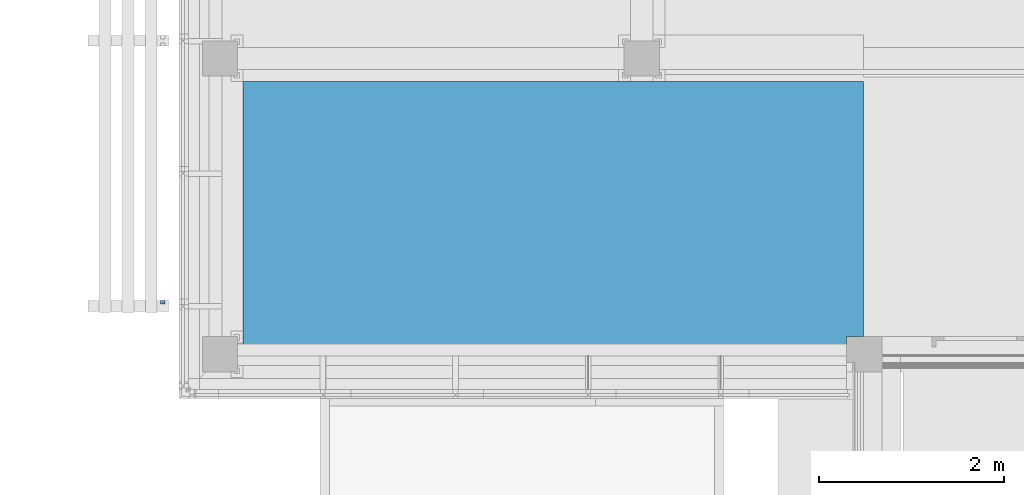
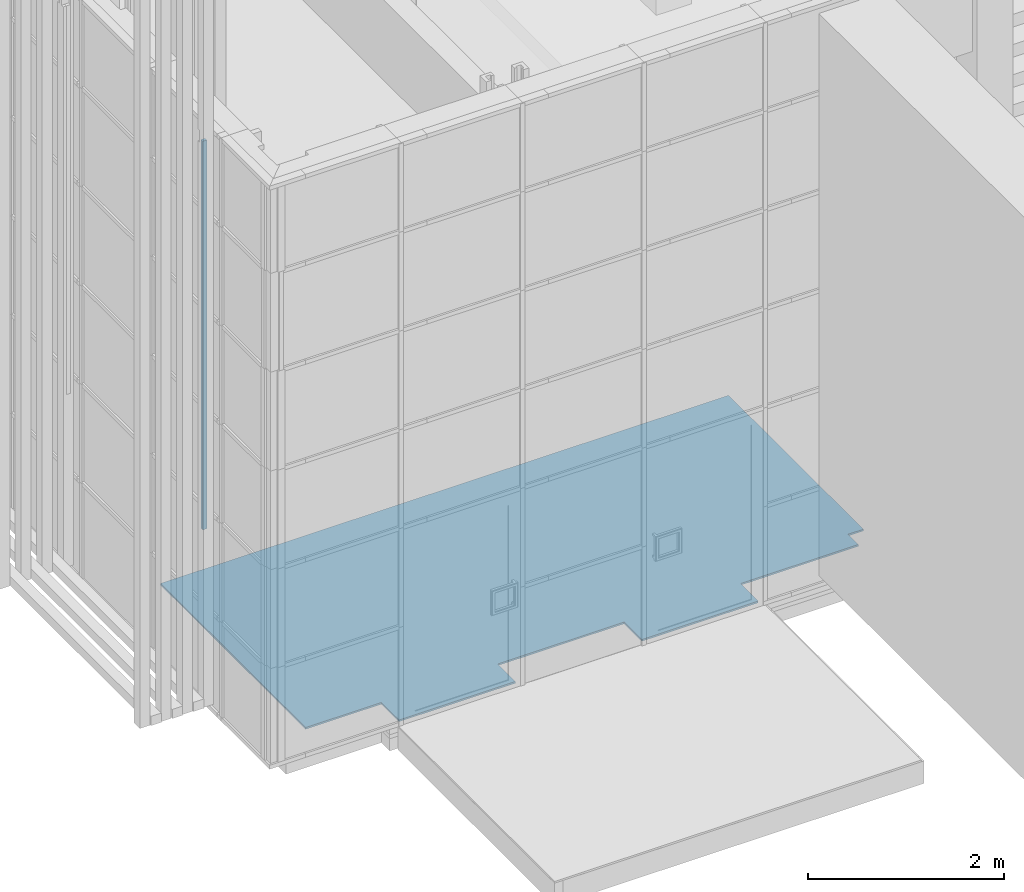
# One storey, part 133 of 260: 2 discrete accessories.
"""IFC2X3 building model written with IfcOpenShell, lengths in millimetres."""

from ifc_helpers import new_model, entity, si_unit, converted_unit, derived_unit, money_unit, direction, frame, origin_with_axes, place, context, subcontext, project, spatial, faceted_brep, material, type_object, element, save


model = new_model("IFC2X3")

# Units and contexts
model_context = context("Model", 3, precision=0.01, world=origin_with_axes(), true_north=direction((0.0, 1.0)))
body_context = subcontext(model_context, "Body", "Model", "MODEL_VIEW")
ifc_project = project(units=[si_unit("LENGTHUNIT", "METRE", prefix="MILLI"), si_unit("AREAUNIT", "SQUARE_METRE"), si_unit("VOLUMEUNIT", "CUBIC_METRE"), converted_unit("PLANEANGLEUNIT", "DEGREE", entity("IfcPlaneAngleMeasure", 0.0174532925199), si_unit("PLANEANGLEUNIT", "RADIAN"), dimensions=[0, 0, 0, 0, 0, 0, 0]), money_unit("EUR"), converted_unit("TIMEUNIT", "Year", entity("IfcTimeMeasure", 31556926.0), si_unit("TIMEUNIT", "SECOND"), dimensions=[0, 0, 1, 0, 0, 0, 0]), si_unit("MASSUNIT", "GRAM", prefix="KILO"), si_unit("THERMODYNAMICTEMPERATUREUNIT", "DEGREE_CELSIUS"), si_unit("LUMINOUSINTENSITYUNIT", "LUMEN"), si_unit("ENERGYUNIT", "JOULE", prefix="MEGA"), derived_unit("THERMALCONDUCTANCEUNIT", [(si_unit("POWERUNIT", "WATT"), 1), (si_unit("LENGTHUNIT", "METRE"), -1), (si_unit("THERMODYNAMICTEMPERATUREUNIT", "KELVIN"), -1)]), derived_unit("SPECIFICHEATCAPACITYUNIT", [(si_unit("ENERGYUNIT", "JOULE"), 1), (si_unit("MASSUNIT", "GRAM", prefix="KILO"), -1), (si_unit("THERMODYNAMICTEMPERATUREUNIT", "KELVIN"), -1)]), derived_unit("MASSDENSITYUNIT", [(si_unit("MASSUNIT", "GRAM", prefix="KILO"), 1), (si_unit("VOLUMEUNIT", "CUBIC_METRE"), -1)])], contexts=[model_context])

# Site, building, storey
site_placement = place(None, origin_with_axes())
site = spatial("IfcSite", under=ifc_project, at=site_placement, Name="Kolde pst 67a", CompositionType="ELEMENT")
building_placement = place(site_placement, origin_with_axes())
building = spatial("IfcBuilding", under=site, at=building_placement, Name="Riigigümnaasium", CompositionType="ELEMENT")
storey_placement = place(building_placement, origin_with_axes())
storey = spatial("IfcBuildingStorey", under=building, at=storey_placement, Name="1. korrus", CompositionType="ELEMENT", Elevation=0.0)

# Discrete accessories
ifc_material = material(Name="_METALL - teras")
discrete_accessory_type_1 = type_object("IfcDiscreteAccessoryType", Name="_METALL - teras 22")
discrete_accessory_1_placement = place(storey_placement, frame((48479.9855025, 7690.00777853, 0.0), z_axis=(0.0, 0.0, 1.0), x_axis=(1.0, 0.0, 0.0)))
element("IfcDiscreteAccessory", 1, at=discrete_accessory_1_placement, inside=storey, type_object=discrete_accessory_type_1, material=ifc_material, Name="süvistatud poritõkkesüsteem 22 mm vastavalt SA osale", context=body_context, shape_type="Brep", body=[
    faceted_brep([(0.0, 0.0, 0.0), (0.0, 0.0, -22.0), (891.781124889, 0.0, -22.0), (891.781124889, 0.0, 0.0), (0.0, 2959.95423622, 0.0), (0.0, 2959.95423622, -22.0), (6689.99657307, 2959.95423622, -22.0), (6689.99657307, 209.992290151, -22.0), (6509.99476493, 209.992290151, -22.0), (6509.99476493, 0.0, -22.0), (5121.56567142, 0.0, -22.0), (5121.56557173, -360.009198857, -22.0), (3751.5655502, -360.008800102, -22.0), (3751.56564989, -0.0088723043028, -22.0), (3751.85394994, 0.0, -22.0), (2260.65735443, 0.0, -22.0), (2260.65725474, -360.008401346, -22.0), (891.565597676, -360.008002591, -22.0), (891.565697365, -0.00807479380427, -22.0), (891.565697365, -0.00807479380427, 0.0), (891.565597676, -360.008002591, 0.0), (2260.65725474, -360.008401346, 0.0), (2260.65735443, 0.0, 0.0), (3751.85394994, 0.0, 0.0), (3751.56564989, -0.0088723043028, 0.0), (3751.5655502, -360.008800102, 0.0), (5121.56557173, -360.009198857, 0.0), (5121.56567142, 0.0, 0.0), (6509.99476493, 0.0, 0.0), (6509.99476493, 209.992290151, 0.0), (6689.99657307, 209.992290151, 0.0), (6689.99657307, 2959.95423622, 0.0)], [[[0, 1, 2, 3]], [[4, 5, 1, 0]], [[2, 1, 5, 6, 7, 8, 9, 10, 11, 12, 13, 14, 15, 16, 17, 18]], [[3, 2, 18, 19]], [[4, 0, 3, 19, 20, 21, 22, 23, 24, 25, 26, 27, 28, 29, 30, 31]], [[31, 6, 5, 4]], [[30, 7, 6, 31]], [[29, 8, 7, 30]], [[28, 9, 8, 29]], [[27, 10, 9, 28]], [[26, 11, 10, 27]], [[25, 12, 11, 26]], [[24, 13, 12, 25]], [[23, 14, 13, 24]], [[22, 15, 14, 23]], [[21, 16, 15, 22]], [[20, 17, 16, 21]], [[19, 18, 17, 20]]]),
])
discrete_accessory_type_2 = type_object("IfcDiscreteAccessoryType", Name="_METALL - teras 50 x 35")
discrete_accessory_2_placement = place(storey_placement, frame((47614.9928905, 8269.23323727, 2430.0), z_axis=(0.0, 0.0, 1.0), x_axis=(-1.0, 0.0, 0.0)))
element("IfcDiscreteAccessory", 2, at=discrete_accessory_2_placement, inside=storey, type_object=discrete_accessory_type_2, material=ifc_material, Name="Varjestuskardina külgsiin RENSON või analoog", context=body_context, shape_type="Brep", body=[
    faceted_brep([(-25.0, -17.5, 4839.99966445), (-25.0, -17.5, 0.0), (25.0, -17.5, 0.0), (25.0, -17.5, 4839.99966445), (-25.0, 17.5, 4839.99966445), (-25.0, 17.5, 0.0), (25.0, 17.5, 0.0), (25.0, 17.5, 4839.99966445)], [[[0, 1, 2, 3]], [[4, 5, 1, 0]], [[2, 1, 5, 6]], [[3, 2, 6, 7]], [[4, 0, 3, 7]], [[7, 6, 5, 4]]]),
])

save(model, "model.ifc")
